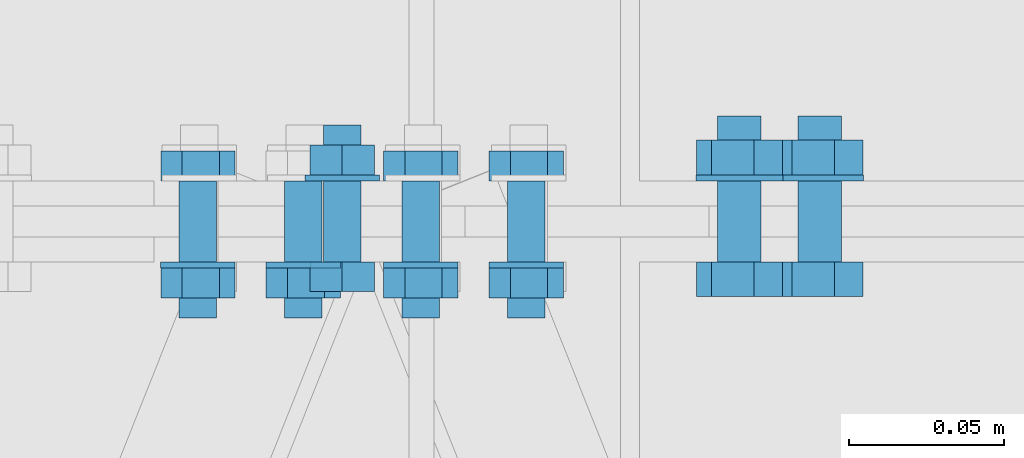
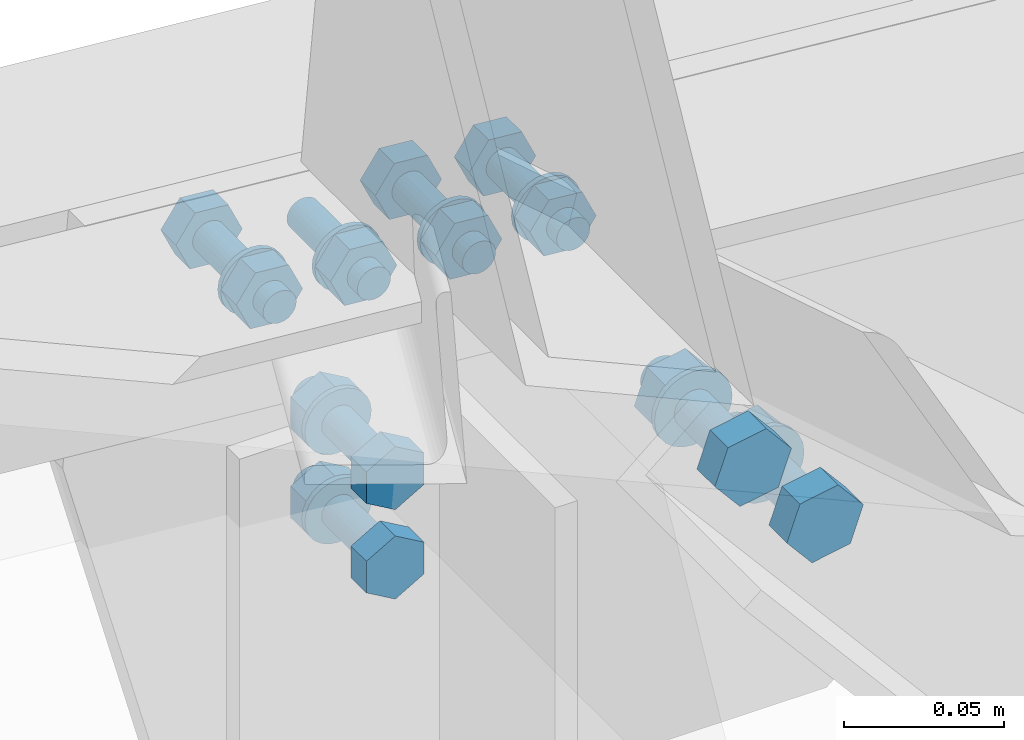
# One storey, part 221 of 251: 31 mechanical fasteners.
"""IFC4 building model written with IfcOpenShell, lengths in metres."""

from ifc_helpers import new_model, si_unit, frame, origin_with_axes, place, context, project, spatial, polyline, outline, extrude, type_object, element, save


model = new_model("IFC4")

# Units and contexts
model_context = context("Model", 3, precision=1e-05, world=origin_with_axes())
ifc_project = project(units=[si_unit("LENGTHUNIT", "METRE"), si_unit("AREAUNIT", "SQUARE_METRE"), si_unit("VOLUMEUNIT", "CUBIC_METRE"), si_unit("MASSUNIT", "GRAM", prefix="KILO"), si_unit("TIMEUNIT", "SECOND"), si_unit("PLANEANGLEUNIT", "RADIAN"), si_unit("SOLIDANGLEUNIT", "STERADIAN"), si_unit("THERMODYNAMICTEMPERATUREUNIT", "DEGREE_CELSIUS")], contexts=[model_context])

# Site, building, storey
placement_1 = place(None, origin_with_axes())
site = spatial("IfcSite", under=ifc_project, at=placement_1, Name="Italia", CompositionType="ELEMENT")
building = spatial("IfcBuilding", under=site, at=placement_1, Name="Deposito", CompositionType="ELEMENT")
storey = spatial("IfcBuildingStorey", under=building, at=placement_1, Name="Storey 0", CompositionType="ELEMENT", Elevation=0.0)

# Mechanical fasteners
mechanical_fastener_type_1 = type_object("IfcMechanicalFastenerType", Name="Reticolare 6", PredefinedType="BOLT")
placement_2 = place(placement_1, origin_with_axes())
mechanical_fastener_1_placement = place(placement_2, origin_with_axes())
element("IfcMechanicalFastener", 1, at=mechanical_fastener_1_placement, inside=storey, type_object=mechanical_fastener_type_1, Name="Reticolare 6", NominalDiameter=0.012, context=model_context, shape_type="SweptSolid", body=[
    extrude(outline(polyline([(0.0, 0.0), (-0.000204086, -0.00155306), (-0.000804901, -0.00299978), (-0.00175858, -0.00424242), (-0.00300026, -0.00519609), (-0.00444794, -0.00579548), (-0.00600052, -0.00600004), (-0.0075531, -0.00579548), (-0.00900078, -0.00519609), (-0.0102425, -0.00424242), (-0.0111961, -0.00299978), (-0.011797, -0.00155306), (-0.012001, 0.0), (-0.011797, 0.00155306), (-0.0111961, 0.00299978), (-0.0102425, 0.00424242), (-0.00900078, 0.00519609), (-0.0075531, 0.00579548), (-0.00600052, 0.00600004), (-0.00444794, 0.00579548), (-0.00300026, 0.00519609), (-0.00175858, 0.00424242), (-0.000804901, 0.00299978), (-0.000204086, 0.00155306), (0.0, 0.0)])), frame((17.9821, 19.969, 6.16899), z_axis=(0.0, 1.0, 0.0), x_axis=(-1.0, 0.0, 0.0)), (0.0, 0.0, 1.0), 0.0440006),
])
mechanical_fastener_type_2 = type_object("IfcMechanicalFastenerType", Name="Reticolare 6", PredefinedType="BOLT")
mechanical_fastener_2_placement = place(placement_2, origin_with_axes())
element("IfcMechanicalFastener", 2, at=mechanical_fastener_2_placement, inside=storey, type_object=mechanical_fastener_type_2, Name="Reticolare 6", NominalDiameter=0.011999, context=model_context, shape_type="SweptSolid", body=[
    extrude(outline(polyline([(0.0, 0.0), (0.0119534, 0.00104618), (0.018837, -0.00878382), (0.0137653, -0.0196595), (0.00181198, -0.0207052), (-0.00507164, -0.0108757), (0.0, 0.0)])), frame((17.995, 19.9754, 6.17882), z_axis=(0.0, 1.0, 0.0), x_axis=(-1.0, 0.0, 0.0)), (0.0, 0.0, 1.0), 0.00959969),
])
mechanical_fastener_type_3 = type_object("IfcMechanicalFastenerType", Name="Reticolare 6", PredefinedType="BOLT")
mechanical_fastener_3_placement = place(placement_2, origin_with_axes())
element("IfcMechanicalFastener", 3, at=mechanical_fastener_3_placement, inside=storey, type_object=mechanical_fastener_type_3, Name="Reticolare 6", NominalDiameter=0.024, context=model_context, shape_type="SweptSolid", body=[
    extrude(outline(polyline([(0.0, 0.0), (-0.000408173, -0.00310564), (-0.00160599, -0.00600004), (-0.00351334, -0.00848532), (-0.00599861, -0.0103922), (-0.00889397, -0.011591), (-0.0119991, -0.0120001), (-0.0151043, -0.011591), (-0.0179996, -0.0103922), (-0.0204849, -0.00848532), (-0.0223923, -0.00600004), (-0.0235901, -0.00310564), (-0.0239983, 0.0), (-0.0235901, 0.00310564), (-0.0223923, 0.00600004), (-0.0204849, 0.00848532), (-0.0179996, 0.0103922), (-0.0151043, 0.011591), (-0.0119991, 0.0120001), (-0.00889397, 0.011591), (-0.00599861, 0.0103922), (-0.00351334, 0.00848532), (-0.00160599, 0.00600004), (-0.000408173, 0.00310564), (0.0, 0.0)])), frame((17.9761, 19.985, 6.16899), z_axis=(0.0, 1.0, 0.0), x_axis=(-1.0, 0.0, 0.0)), (0.0, 0.0, 1.0), 0.0019989),
])
mechanical_fastener_type_4 = type_object("IfcMechanicalFastenerType", Name="Reticolare 6", PredefinedType="BOLT")
mechanical_fastener_4_placement = place(placement_2, origin_with_axes())
element("IfcMechanicalFastener", 4, at=mechanical_fastener_4_placement, inside=storey, type_object=mechanical_fastener_type_4, Name="Reticolare 6", NominalDiameter=0.011999, context=model_context, shape_type="SweptSolid", body=[
    extrude(outline(polyline([(0.0, 0.0), (0.0119534, 0.0010457), (0.018837, -0.00878429), (0.0137653, -0.01966), (0.00181198, -0.0207057), (-0.00507164, -0.0108757), (0.0, 0.0)])), frame((17.9611, 20.013, 6.18179), z_axis=(0.0, 1.0, 0.0), x_axis=(-1.0, 0.0, 0.0)), (0.0, 0.0, 1.0), 0.00959969),
])
mechanical_fastener_type_5 = type_object("IfcMechanicalFastenerType", Name="Reticolare 6", PredefinedType="BOLT")
mechanical_fastener_5_placement = place(placement_2, origin_with_axes())
element("IfcMechanicalFastener", 5, at=mechanical_fastener_5_placement, inside=storey, type_object=mechanical_fastener_type_5, Name="Reticolare 6", NominalDiameter=0.012, context=model_context, shape_type="SweptSolid", body=[
    extrude(outline(polyline([(0.0, 0.0), (-0.000204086, -0.00155306), (-0.000804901, -0.00299978), (-0.00175858, -0.00424242), (-0.00300026, -0.00519609), (-0.00444794, -0.00579548), (-0.00600052, -0.00600004), (-0.0075531, -0.00579548), (-0.00900078, -0.00519609), (-0.0102425, -0.00424242), (-0.0111961, -0.00299978), (-0.011797, -0.00155306), (-0.012001, 0.0), (-0.011797, 0.00155306), (-0.0111961, 0.00299978), (-0.0102425, 0.00424242), (-0.00900078, 0.00519609), (-0.0075531, 0.00579548), (-0.00600052, 0.00600004), (-0.00444794, 0.00579548), (-0.00300026, 0.00519609), (-0.00175858, 0.00424242), (-0.000804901, 0.00299978), (-0.000204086, 0.00155306), (0.0, 0.0)])), frame((17.9482, 19.969, 6.17196), z_axis=(0.0, 1.0, 0.0), x_axis=(-1.0, 0.0, 0.0)), (0.0, 0.0, 1.0), 0.0440006),
])
mechanical_fastener_type_6 = type_object("IfcMechanicalFastenerType", Name="Reticolare 6", PredefinedType="BOLT")
mechanical_fastener_6_placement = place(placement_2, origin_with_axes())
element("IfcMechanicalFastener", 6, at=mechanical_fastener_6_placement, inside=storey, type_object=mechanical_fastener_type_6, Name="Reticolare 6", NominalDiameter=0.011999, context=model_context, shape_type="SweptSolid", body=[
    extrude(outline(polyline([(0.0, 0.0), (0.0119534, 0.0010457), (0.018837, -0.00878429), (0.0137653, -0.01966), (0.00181198, -0.0207057), (-0.00507164, -0.0108757), (0.0, 0.0)])), frame((17.9611, 19.9754, 6.18179), z_axis=(0.0, 1.0, 0.0), x_axis=(-1.0, 0.0, 0.0)), (0.0, 0.0, 1.0), 0.00959969),
])
mechanical_fastener_type_7 = type_object("IfcMechanicalFastenerType", Name="Reticolare 6", PredefinedType="BOLT")
mechanical_fastener_7_placement = place(placement_2, origin_with_axes())
element("IfcMechanicalFastener", 7, at=mechanical_fastener_7_placement, inside=storey, type_object=mechanical_fastener_type_7, Name="Reticolare 6", NominalDiameter=0.024, context=model_context, shape_type="SweptSolid", body=[
    extrude(outline(polyline([(0.0, 0.0), (-0.000408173, -0.00310564), (-0.00160599, -0.00600004), (-0.00351334, -0.00848532), (-0.00599861, -0.0103922), (-0.00889397, -0.011591), (-0.0119991, -0.0120001), (-0.0151043, -0.011591), (-0.0179996, -0.0103922), (-0.0204849, -0.00848532), (-0.0223923, -0.00600004), (-0.0235901, -0.00310564), (-0.0239983, 0.0), (-0.0235901, 0.00310564), (-0.0223923, 0.00600004), (-0.0204849, 0.00848532), (-0.0179996, 0.0103922), (-0.0151043, 0.011591), (-0.0119991, 0.0120001), (-0.00889397, 0.011591), (-0.00599861, 0.0103922), (-0.00351334, 0.00848532), (-0.00160599, 0.00600004), (-0.000408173, 0.00310564), (0.0, 0.0)])), frame((17.9422, 19.985, 6.17196), z_axis=(0.0, 1.0, 0.0), x_axis=(-1.0, 0.0, 0.0)), (0.0, 0.0, 1.0), 0.0019989),
])
mechanical_fastener_type_8 = type_object("IfcMechanicalFastenerType", Name="Reticolare 6", PredefinedType="BOLT")
mechanical_fastener_8_placement = place(placement_2, origin_with_axes())
element("IfcMechanicalFastener", 8, at=mechanical_fastener_8_placement, inside=storey, type_object=mechanical_fastener_type_8, Name="Reticolare 6", NominalDiameter=0.011999, context=model_context, shape_type="SweptSolid", body=[
    extrude(outline(polyline([(0.0, 0.0), (0.0119534, 0.0010457), (0.018837, -0.00878429), (0.0137653, -0.01966), (0.00181007, -0.0207057), (-0.00507164, -0.0108757), (0.0, 0.0)])), frame((18.0328, 20.013, 6.17551), z_axis=(0.0, 1.0, 0.0), x_axis=(-1.0, 0.0, 0.0)), (0.0, 0.0, 1.0), 0.00959969),
])
mechanical_fastener_type_9 = type_object("IfcMechanicalFastenerType", Name="Reticolare 6", PredefinedType="BOLT")
mechanical_fastener_9_placement = place(placement_2, origin_with_axes())
element("IfcMechanicalFastener", 9, at=mechanical_fastener_9_placement, inside=storey, type_object=mechanical_fastener_type_9, Name="Reticolare 6", NominalDiameter=0.012, context=model_context, shape_type="SweptSolid", body=[
    extrude(outline(polyline([(0.0, 0.0), (-0.000204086, -0.00155306), (-0.000804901, -0.00299978), (-0.00175858, -0.00424242), (-0.00300026, -0.00519609), (-0.00444794, -0.00579548), (-0.00600052, -0.00600004), (-0.0075531, -0.00579548), (-0.00900078, -0.00519609), (-0.0102425, -0.00424242), (-0.0111961, -0.00299978), (-0.011797, -0.00155306), (-0.012001, 0.0), (-0.011797, 0.00155306), (-0.0111961, 0.00299978), (-0.0102425, 0.00424242), (-0.00900078, 0.00519609), (-0.0075531, 0.00579548), (-0.00600052, 0.00600004), (-0.00444794, 0.00579548), (-0.00300026, 0.00519609), (-0.00175858, 0.00424242), (-0.000804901, 0.00299978), (-0.000204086, 0.00155306), (0.0, 0.0)])), frame((18.0199, 19.969, 6.16568), z_axis=(0.0, 1.0, 0.0), x_axis=(-1.0, 0.0, 0.0)), (0.0, 0.0, 1.0), 0.0440006),
])
mechanical_fastener_type_10 = type_object("IfcMechanicalFastenerType", Name="Reticolare 6", PredefinedType="BOLT")
mechanical_fastener_10_placement = place(placement_2, origin_with_axes())
element("IfcMechanicalFastener", 10, at=mechanical_fastener_10_placement, inside=storey, type_object=mechanical_fastener_type_10, Name="Reticolare 6", NominalDiameter=0.011999, context=model_context, shape_type="SweptSolid", body=[
    extrude(outline(polyline([(0.0, 0.0), (0.0119534, 0.0010457), (0.018837, -0.00878429), (0.0137653, -0.01966), (0.00181007, -0.0207057), (-0.00507164, -0.0108757), (0.0, 0.0)])), frame((18.0328, 19.9754, 6.17551), z_axis=(0.0, 1.0, 0.0), x_axis=(-1.0, 0.0, 0.0)), (0.0, 0.0, 1.0), 0.00959969),
])
mechanical_fastener_type_11 = type_object("IfcMechanicalFastenerType", Name="Reticolare 6", PredefinedType="BOLT")
mechanical_fastener_11_placement = place(placement_2, origin_with_axes())
element("IfcMechanicalFastener", 11, at=mechanical_fastener_11_placement, inside=storey, type_object=mechanical_fastener_type_11, Name="Reticolare 6", NominalDiameter=0.024, context=model_context, shape_type="SweptSolid", body=[
    extrude(outline(polyline([(0.0, 0.0), (-0.000408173, -0.00310564), (-0.00160599, -0.00600004), (-0.00351334, -0.00848532), (-0.00599861, -0.0103922), (-0.00889397, -0.011591), (-0.0119991, -0.0120001), (-0.0151043, -0.011591), (-0.0179996, -0.0103922), (-0.0204849, -0.00848532), (-0.0223923, -0.00600004), (-0.0235901, -0.00310564), (-0.0239983, 0.0), (-0.0235901, 0.00310564), (-0.0223923, 0.00600004), (-0.0204849, 0.00848532), (-0.0179996, 0.0103922), (-0.0151043, 0.011591), (-0.0119991, 0.0120001), (-0.00889397, 0.011591), (-0.00599861, 0.0103922), (-0.00351334, 0.00848532), (-0.00160599, 0.00600004), (-0.000408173, 0.00310564), (0.0, 0.0)])), frame((18.0139, 19.985, 6.16568), z_axis=(0.0, 1.0, 0.0), x_axis=(-1.0, 0.0, 0.0)), (0.0, 0.0, 1.0), 0.0019989),
])
mechanical_fastener_type_12 = type_object("IfcMechanicalFastenerType", Name="Reticolare 6", PredefinedType="BOLT")
mechanical_fastener_12_placement = place(placement_2, origin_with_axes())
element("IfcMechanicalFastener", 12, at=mechanical_fastener_12_placement, inside=storey, type_object=mechanical_fastener_type_12, Name="Reticolare 6", NominalDiameter=0.011999, context=model_context, shape_type="SweptSolid", body=[
    extrude(outline(polyline([(0.0, 0.0), (0.0119534, 0.0010457), (0.018837, -0.00878382), (0.0137653, -0.0196595), (0.00181007, -0.0207052), (-0.00507164, -0.0108757), (0.0, 0.0)])), frame((18.0667, 20.013, 6.17255), z_axis=(0.0, 1.0, 0.0), x_axis=(-1.0, 0.0, 0.0)), (0.0, 0.0, 1.0), 0.00959969),
])
mechanical_fastener_type_13 = type_object("IfcMechanicalFastenerType", Name="Reticolare 6", PredefinedType="BOLT")
mechanical_fastener_13_placement = place(placement_2, origin_with_axes())
element("IfcMechanicalFastener", 13, at=mechanical_fastener_13_placement, inside=storey, type_object=mechanical_fastener_type_13, Name="Reticolare 6", NominalDiameter=0.012, context=model_context, shape_type="SweptSolid", body=[
    extrude(outline(polyline([(0.0, 0.0), (-0.000204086, -0.00155306), (-0.000804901, -0.00299978), (-0.00175858, -0.00424242), (-0.00300026, -0.00519609), (-0.00444794, -0.00579548), (-0.00600052, -0.00600004), (-0.0075531, -0.00579548), (-0.00900078, -0.00519609), (-0.0102425, -0.00424242), (-0.0111961, -0.00299978), (-0.011797, -0.00155306), (-0.012001, 0.0), (-0.011797, 0.00155306), (-0.0111961, 0.00299978), (-0.0102425, 0.00424242), (-0.00900078, 0.00519609), (-0.0075531, 0.00579548), (-0.00600052, 0.00600004), (-0.00444794, 0.00579548), (-0.00300026, 0.00519609), (-0.00175858, 0.00424242), (-0.000804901, 0.00299978), (-0.000204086, 0.00155306), (0.0, 0.0)])), frame((18.0538, 19.969, 6.16272), z_axis=(0.0, 1.0, 0.0), x_axis=(-1.0, 0.0, 0.0)), (0.0, 0.0, 1.0), 0.0440006),
])
mechanical_fastener_type_14 = type_object("IfcMechanicalFastenerType", Name="Reticolare 6", PredefinedType="BOLT")
mechanical_fastener_14_placement = place(placement_2, origin_with_axes())
element("IfcMechanicalFastener", 14, at=mechanical_fastener_14_placement, inside=storey, type_object=mechanical_fastener_type_14, Name="Reticolare 6", NominalDiameter=0.011999, context=model_context, shape_type="SweptSolid", body=[
    extrude(outline(polyline([(0.0, 0.0), (0.0119534, 0.0010457), (0.018837, -0.00878382), (0.0137653, -0.0196595), (0.00181007, -0.0207052), (-0.00507164, -0.0108757), (0.0, 0.0)])), frame((18.0667, 19.9754, 6.17255), z_axis=(0.0, 1.0, 0.0), x_axis=(-1.0, 0.0, 0.0)), (0.0, 0.0, 1.0), 0.00959969),
])
mechanical_fastener_type_15 = type_object("IfcMechanicalFastenerType", Name="Reticolare 6", PredefinedType="BOLT")
mechanical_fastener_15_placement = place(placement_2, origin_with_axes())
element("IfcMechanicalFastener", 15, at=mechanical_fastener_15_placement, inside=storey, type_object=mechanical_fastener_type_15, Name="Reticolare 6", NominalDiameter=0.024, context=model_context, shape_type="SweptSolid", body=[
    extrude(outline(polyline([(0.0, 0.0), (-0.000408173, -0.00310564), (-0.00160599, -0.00600004), (-0.00351334, -0.00848532), (-0.00599861, -0.0103922), (-0.00889397, -0.011591), (-0.0119991, -0.0120001), (-0.0151043, -0.011591), (-0.0179996, -0.0103922), (-0.0204849, -0.00848532), (-0.0223923, -0.00600004), (-0.0235901, -0.00310564), (-0.0239983, 0.0), (-0.0235901, 0.00310564), (-0.0223923, 0.00600004), (-0.0204849, 0.00848532), (-0.0179996, 0.0103922), (-0.0151043, 0.011591), (-0.0119991, 0.0120001), (-0.00889397, 0.011591), (-0.00599861, 0.0103922), (-0.00351334, 0.00848532), (-0.00160599, 0.00600004), (-0.000408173, 0.00310564), (0.0, 0.0)])), frame((18.0478, 19.985, 6.16272), z_axis=(0.0, 1.0, 0.0), x_axis=(-1.0, 0.0, 0.0)), (0.0, 0.0, 1.0), 0.0019989),
])
mechanical_fastener_type_16 = type_object("IfcMechanicalFastenerType", Name="Reticolare 6", PredefinedType="BOLT")
mechanical_fastener_16_placement = place(placement_2, origin_with_axes())
element("IfcMechanicalFastener", 16, at=mechanical_fastener_16_placement, inside=storey, type_object=mechanical_fastener_type_16, Name="Reticolare 6", NominalDiameter=0.0120001, context=model_context, shape_type="SweptSolid", body=[
    extrude(outline(polyline([(0.0, 0.0), (0.0, -0.0120001), (-0.0103931, -0.0180001), (-0.0207863, -0.0120001), (-0.0207863, 0.0), (-0.0103931, 0.00600004), (0.0, 0.0)])), frame((18.011, 19.987, 6.09155), z_axis=(0.0, -1.0, 0.0), x_axis=(1.0, 0.0, 0.0)), (0.0, 0.0, 1.0), 0.00959969),
])
mechanical_fastener_type_17 = type_object("IfcMechanicalFastenerType", Name="Reticolare 6", PredefinedType="BOLT")
mechanical_fastener_17_placement = place(placement_2, origin_with_axes())
element("IfcMechanicalFastener", 17, at=mechanical_fastener_17_placement, inside=storey, type_object=mechanical_fastener_type_17, Name="Reticolare 6", NominalDiameter=0.012, context=model_context, shape_type="SweptSolid", body=[
    extrude(outline(polyline([(0.0, 0.0), (-0.000204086, -0.00155306), (-0.000804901, -0.00299978), (-0.00175858, -0.00424242), (-0.00300026, -0.00519609), (-0.00444794, -0.00579548), (-0.00600052, -0.00600004), (-0.0075531, -0.00579548), (-0.00900078, -0.00519609), (-0.0102425, -0.00424242), (-0.0111961, -0.00299978), (-0.011797, -0.00155306), (-0.012001, 0.0), (-0.011797, 0.00155306), (-0.0111961, 0.00299978), (-0.0102425, 0.00424242), (-0.00900078, 0.00519609), (-0.0075531, 0.00579548), (-0.00600052, 0.00600004), (-0.00444794, 0.00579548), (-0.00300026, 0.00519609), (-0.00175858, 0.00424242), (-0.000804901, 0.00299978), (-0.000204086, 0.00155306), (0.0, 0.0)])), frame((18.0066, 20.031, 6.08555), z_axis=(0.0, -1.0, 0.0), x_axis=(1.0, 0.0, 0.0)), (0.0, 0.0, 1.0), 0.0440006),
])
mechanical_fastener_type_18 = type_object("IfcMechanicalFastenerType", Name="Reticolare 6", PredefinedType="BOLT")
mechanical_fastener_18_placement = place(placement_2, origin_with_axes())
element("IfcMechanicalFastener", 18, at=mechanical_fastener_18_placement, inside=storey, type_object=mechanical_fastener_type_18, Name="Reticolare 6", NominalDiameter=0.0120001, context=model_context, shape_type="SweptSolid", body=[
    extrude(outline(polyline([(0.0, 0.0), (0.0, -0.0120001), (-0.0103931, -0.0180001), (-0.0207863, -0.0120001), (-0.0207863, 0.0), (-0.0103931, 0.00600004), (0.0, 0.0)])), frame((18.011, 20.0246, 6.09155), z_axis=(0.0, -1.0, 0.0), x_axis=(1.0, 0.0, 0.0)), (0.0, 0.0, 1.0), 0.00959969),
])
mechanical_fastener_type_19 = type_object("IfcMechanicalFastenerType", Name="Reticolare 6", PredefinedType="BOLT")
mechanical_fastener_19_placement = place(placement_2, origin_with_axes())
element("IfcMechanicalFastener", 19, at=mechanical_fastener_19_placement, inside=storey, type_object=mechanical_fastener_type_19, Name="Reticolare 6", NominalDiameter=0.024, context=model_context, shape_type="SweptSolid", body=[
    extrude(outline(polyline([(0.0, 0.0), (-0.000408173, -0.00310564), (-0.00160599, -0.00600004), (-0.00351334, -0.00848532), (-0.00599861, -0.0103922), (-0.00889397, -0.011591), (-0.0119991, -0.0120001), (-0.0151043, -0.011591), (-0.0179996, -0.0103922), (-0.0204849, -0.00848532), (-0.0223923, -0.00600004), (-0.0235901, -0.00310564), (-0.0239983, 0.0), (-0.0235901, 0.00310564), (-0.0223923, 0.00600004), (-0.0204849, 0.00848532), (-0.0179996, 0.0103922), (-0.0151043, 0.011591), (-0.0119991, 0.0120001), (-0.00889397, 0.011591), (-0.00599861, 0.0103922), (-0.00351334, 0.00848532), (-0.00160599, 0.00600004), (-0.000408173, 0.00310564), (0.0, 0.0)])), frame((18.0126, 20.015, 6.08555), z_axis=(0.0, -1.0, 0.0), x_axis=(1.0, 0.0, 0.0)), (0.0, 0.0, 1.0), 0.0019989),
])
mechanical_fastener_type_20 = type_object("IfcMechanicalFastenerType", Name="Reticolare 6", PredefinedType="BOLT")
mechanical_fastener_20_placement = place(placement_2, origin_with_axes())
element("IfcMechanicalFastener", 20, at=mechanical_fastener_20_placement, inside=storey, type_object=mechanical_fastener_type_20, Name="Reticolare 6", NominalDiameter=0.0120001, context=model_context, shape_type="SweptSolid", body=[
    extrude(outline(polyline([(0.0, 0.0), (0.0, -0.0120001), (-0.0103931, -0.0180001), (-0.0207863, -0.0120001), (-0.0207863, 0.0), (-0.0103931, 0.00600004), (0.0, 0.0)])), frame((18.011, 19.987, 6.05755), z_axis=(0.0, -1.0, 0.0), x_axis=(1.0, 0.0, 0.0)), (0.0, 0.0, 1.0), 0.00959969),
])
mechanical_fastener_type_21 = type_object("IfcMechanicalFastenerType", Name="Reticolare 6", PredefinedType="BOLT")
mechanical_fastener_21_placement = place(placement_2, origin_with_axes())
element("IfcMechanicalFastener", 21, at=mechanical_fastener_21_placement, inside=storey, type_object=mechanical_fastener_type_21, Name="Reticolare 6", NominalDiameter=0.012, context=model_context, shape_type="SweptSolid", body=[
    extrude(outline(polyline([(0.0, 0.0), (-0.000204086, -0.00155306), (-0.000804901, -0.00299978), (-0.00175858, -0.00424242), (-0.00300026, -0.00519609), (-0.00444794, -0.00579548), (-0.00600052, -0.00600004), (-0.0075531, -0.00579548), (-0.00900078, -0.00519609), (-0.0102425, -0.00424242), (-0.0111961, -0.00299978), (-0.011797, -0.00155306), (-0.012001, 0.0), (-0.011797, 0.00155306), (-0.0111961, 0.00299978), (-0.0102425, 0.00424242), (-0.00900078, 0.00519609), (-0.0075531, 0.00579548), (-0.00600052, 0.00600004), (-0.00444794, 0.00579548), (-0.00300026, 0.00519609), (-0.00175858, 0.00424242), (-0.000804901, 0.00299978), (-0.000204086, 0.00155306), (0.0, 0.0)])), frame((18.0066, 20.031, 6.05155), z_axis=(0.0, -1.0, 0.0), x_axis=(1.0, 0.0, 0.0)), (0.0, 0.0, 1.0), 0.0440006),
])
mechanical_fastener_type_22 = type_object("IfcMechanicalFastenerType", Name="Reticolare 6", PredefinedType="BOLT")
mechanical_fastener_22_placement = place(placement_2, origin_with_axes())
element("IfcMechanicalFastener", 22, at=mechanical_fastener_22_placement, inside=storey, type_object=mechanical_fastener_type_22, Name="Reticolare 6", NominalDiameter=0.0120001, context=model_context, shape_type="SweptSolid", body=[
    extrude(outline(polyline([(0.0, 0.0), (0.0, -0.0120001), (-0.0103931, -0.0180001), (-0.0207863, -0.0120001), (-0.0207863, 0.0), (-0.0103931, 0.00600004), (0.0, 0.0)])), frame((18.011, 20.0246, 6.05755), z_axis=(0.0, -1.0, 0.0), x_axis=(1.0, 0.0, 0.0)), (0.0, 0.0, 1.0), 0.00959969),
])
mechanical_fastener_type_23 = type_object("IfcMechanicalFastenerType", Name="Reticolare 6", PredefinedType="BOLT")
mechanical_fastener_23_placement = place(placement_2, origin_with_axes())
element("IfcMechanicalFastener", 23, at=mechanical_fastener_23_placement, inside=storey, type_object=mechanical_fastener_type_23, Name="Reticolare 6", NominalDiameter=0.024, context=model_context, shape_type="SweptSolid", body=[
    extrude(outline(polyline([(0.0, 0.0), (-0.000408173, -0.00310564), (-0.00160599, -0.00600004), (-0.00351334, -0.00848532), (-0.00599861, -0.0103922), (-0.00889397, -0.011591), (-0.0119991, -0.0120001), (-0.0151043, -0.011591), (-0.0179996, -0.0103922), (-0.0204849, -0.00848532), (-0.0223923, -0.00600004), (-0.0235901, -0.00310564), (-0.0239983, 0.0), (-0.0235901, 0.00310564), (-0.0223923, 0.00600004), (-0.0204849, 0.00848532), (-0.0179996, 0.0103922), (-0.0151043, 0.011591), (-0.0119991, 0.0120001), (-0.00889397, 0.011591), (-0.00599861, 0.0103922), (-0.00351334, 0.00848532), (-0.00160599, 0.00600004), (-0.000408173, 0.00310564), (0.0, 0.0)])), frame((18.0126, 20.015, 6.05155), z_axis=(0.0, -1.0, 0.0), x_axis=(1.0, 0.0, 0.0)), (0.0, 0.0, 1.0), 0.0019989),
])
mechanical_fastener_type_24 = type_object("IfcMechanicalFastenerType", Name="Reticolare 6", PredefinedType="BOLT")
mechanical_fastener_24_placement = place(placement_2, origin_with_axes())
element("IfcMechanicalFastener", 24, at=mechanical_fastener_24_placement, inside=storey, type_object=mechanical_fastener_type_24, Name="Reticolare 6", NominalDiameter=0.013999, context=model_context, shape_type="SweptSolid", body=[
    extrude(outline(polyline([(0.0, 0.0), (-0.009058, 0.0106759), (-0.00433922, 0.0238571), (0.00943375, 0.0263624), (0.0184898, 0.0156865), (0.013773, 0.0025053), (0.0, 0.0)])), frame((18.1237, 19.987, 6.03264), z_axis=(0.0, -1.0, 0.0), x_axis=(1.0, 0.0, 0.0)), (0.0, 0.0, 1.0), 0.0112),
])
mechanical_fastener_type_25 = type_object("IfcMechanicalFastenerType", Name="Reticolare 6", PredefinedType="BOLT")
mechanical_fastener_25_placement = place(placement_2, origin_with_axes())
element("IfcMechanicalFastener", 25, at=mechanical_fastener_25_placement, inside=storey, type_object=mechanical_fastener_type_25, Name="Reticolare 6", NominalDiameter=0.014, context=model_context, shape_type="SweptSolid", body=[
    extrude(outline(polyline([(0.0, 0.0), (-0.000238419, -0.0018115), (-0.000938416, -0.00349998), (-0.0020504, -0.00494957), (-0.00349998, -0.00606203), (-0.00518799, -0.00676155), (-0.00699997, -0.00699997), (-0.00881195, -0.00676155), (-0.0105, -0.00606203), (-0.0119495, -0.00494957), (-0.0130615, -0.00349998), (-0.0137615, -0.0018115), (-0.0139999, 0.0), (-0.0137615, 0.0018115), (-0.0130615, 0.00349998), (-0.0119495, 0.00494957), (-0.0105, 0.00606203), (-0.00881195, 0.00676155), (-0.00699997, 0.00699997), (-0.00518799, 0.00676155), (-0.00349998, 0.00606203), (-0.0020504, 0.00494957), (-0.000938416, 0.00349998), (-0.000238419, 0.0018115), (0.0, 0.0)])), frame((18.1354, 20.034, 6.04582), z_axis=(0.0, -1.0, 0.0), x_axis=(1.0, 0.0, 0.0)), (0.0, 0.0, 1.0), 0.0470009),
])
mechanical_fastener_type_26 = type_object("IfcMechanicalFastenerType", Name="Reticolare 6", PredefinedType="BOLT")
mechanical_fastener_26_placement = place(placement_2, origin_with_axes())
element("IfcMechanicalFastener", 26, at=mechanical_fastener_26_placement, inside=storey, type_object=mechanical_fastener_type_26, Name="Reticolare 6", NominalDiameter=0.013999, context=model_context, shape_type="SweptSolid", body=[
    extrude(outline(polyline([(0.0, 0.0), (-0.009058, 0.0106759), (-0.00433922, 0.0238571), (0.00943375, 0.0263624), (0.0184898, 0.0156865), (0.013773, 0.0025053), (0.0, 0.0)])), frame((18.1237, 20.0262, 6.03264), z_axis=(0.0, -1.0, 0.0), x_axis=(1.0, 0.0, 0.0)), (0.0, 0.0, 1.0), 0.0112),
])
mechanical_fastener_type_27 = type_object("IfcMechanicalFastenerType", Name="Reticolare 6", PredefinedType="BOLT")
mechanical_fastener_27_placement = place(placement_2, origin_with_axes())
element("IfcMechanicalFastener", 27, at=mechanical_fastener_27_placement, inside=storey, type_object=mechanical_fastener_type_27, Name="Reticolare 6", NominalDiameter=0.028, context=model_context, shape_type="SweptSolid", body=[
    extrude(outline(polyline([(0.0, 0.0), (-0.000476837, -0.00362349), (-0.00187492, -0.00699997), (-0.0041008, -0.00989962), (-0.00699997, -0.0121245), (-0.010376, -0.0135231), (-0.0139999, -0.0139999), (-0.0176239, -0.0135231), (-0.0209999, -0.0121245), (-0.0238991, -0.00989962), (-0.026125, -0.00699997), (-0.027523, -0.00362349), (-0.0279999, 0.0), (-0.027523, 0.00362349), (-0.026125, 0.00699997), (-0.0238991, 0.00989962), (-0.0209999, 0.0121245), (-0.0176239, 0.0135231), (-0.0139999, 0.0139999), (-0.010376, 0.0135231), (-0.00699997, 0.0121245), (-0.0041008, 0.00989962), (-0.00187492, 0.00699997), (-0.000476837, 0.00362349), (0.0, 0.0)])), frame((18.1424, 20.015, 6.04582), z_axis=(0.0, -1.0, 0.0), x_axis=(1.0, 0.0, 0.0)), (0.0, 0.0, 1.0), 0.0019989),
])
mechanical_fastener_type_28 = type_object("IfcMechanicalFastenerType", Name="Reticolare 6", PredefinedType="BOLT")
mechanical_fastener_28_placement = place(placement_2, origin_with_axes())
element("IfcMechanicalFastener", 28, at=mechanical_fastener_28_placement, inside=storey, type_object=mechanical_fastener_type_28, Name="Reticolare 6", NominalDiameter=0.0139996, context=model_context, shape_type="SweptSolid", body=[
    extrude(outline(polyline([(0.0, 0.0), (-0.00905609, 0.0106759), (-0.00433922, 0.0238571), (0.00943565, 0.0263624), (0.0184917, 0.0156865), (0.0137749, 0.0025053), (0.0, 0.0)])), frame((18.1496, 19.987, 6.00214), z_axis=(0.0, -1.0, 0.0), x_axis=(1.0, 0.0, 0.0)), (0.0, 0.0, 1.0), 0.0112),
])
mechanical_fastener_type_29 = type_object("IfcMechanicalFastenerType", Name="Reticolare 6", PredefinedType="BOLT")
mechanical_fastener_29_placement = place(placement_2, origin_with_axes())
element("IfcMechanicalFastener", 29, at=mechanical_fastener_29_placement, inside=storey, type_object=mechanical_fastener_type_29, Name="Reticolare 6", NominalDiameter=0.014, context=model_context, shape_type="SweptSolid", body=[
    extrude(outline(polyline([(0.0, 0.0), (-0.000238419, -0.0018115), (-0.000938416, -0.00349998), (-0.0020504, -0.00494957), (-0.00349998, -0.00606203), (-0.00518799, -0.00676155), (-0.00699997, -0.00699997), (-0.00881195, -0.00676155), (-0.0105, -0.00606203), (-0.0119495, -0.00494957), (-0.0130615, -0.00349998), (-0.0137615, -0.0018115), (-0.0139999, 0.0), (-0.0137615, 0.0018115), (-0.0130615, 0.00349998), (-0.0119495, 0.00494957), (-0.0105, 0.00606203), (-0.00881195, 0.00676155), (-0.00699997, 0.00699997), (-0.00518799, 0.00676155), (-0.00349998, 0.00606203), (-0.0020504, 0.00494957), (-0.000938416, 0.00349998), (-0.000238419, 0.0018115), (0.0, 0.0)])), frame((18.1613, 20.034, 6.01532), z_axis=(0.0, -1.0, 0.0), x_axis=(1.0, 0.0, 0.0)), (0.0, 0.0, 1.0), 0.0470009),
])
mechanical_fastener_type_30 = type_object("IfcMechanicalFastenerType", Name="Reticolare 6", PredefinedType="BOLT")
mechanical_fastener_30_placement = place(placement_2, origin_with_axes())
element("IfcMechanicalFastener", 30, at=mechanical_fastener_30_placement, inside=storey, type_object=mechanical_fastener_type_30, Name="Reticolare 6", NominalDiameter=0.0139996, context=model_context, shape_type="SweptSolid", body=[
    extrude(outline(polyline([(0.0, 0.0), (-0.00905609, 0.0106759), (-0.00433922, 0.0238571), (0.00943565, 0.0263624), (0.0184917, 0.0156865), (0.0137749, 0.0025053), (0.0, 0.0)])), frame((18.1496, 20.0262, 6.00214), z_axis=(0.0, -1.0, 0.0), x_axis=(1.0, 0.0, 0.0)), (0.0, 0.0, 1.0), 0.0112),
])
mechanical_fastener_type_31 = type_object("IfcMechanicalFastenerType", Name="Reticolare 6", PredefinedType="BOLT")
mechanical_fastener_31_placement = place(placement_2, origin_with_axes())
element("IfcMechanicalFastener", 31, at=mechanical_fastener_31_placement, inside=storey, type_object=mechanical_fastener_type_31, Name="Reticolare 6", NominalDiameter=0.028, context=model_context, shape_type="SweptSolid", body=[
    extrude(outline(polyline([(0.0, 0.0), (-0.000476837, -0.00362349), (-0.00187492, -0.00699997), (-0.0041008, -0.00989962), (-0.00699997, -0.0121245), (-0.010376, -0.0135231), (-0.0139999, -0.0139999), (-0.0176239, -0.0135231), (-0.0209999, -0.0121245), (-0.0238991, -0.00989962), (-0.026125, -0.00699997), (-0.027523, -0.00362349), (-0.0279999, 0.0), (-0.027523, 0.00362349), (-0.026125, 0.00699997), (-0.0238991, 0.00989962), (-0.0209999, 0.0121245), (-0.0176239, 0.0135231), (-0.0139999, 0.0139999), (-0.010376, 0.0135231), (-0.00699997, 0.0121245), (-0.0041008, 0.00989962), (-0.00187492, 0.00699997), (-0.000476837, 0.00362349), (0.0, 0.0)])), frame((18.1683, 20.015, 6.01532), z_axis=(0.0, -1.0, 0.0), x_axis=(1.0, 0.0, 0.0)), (0.0, 0.0, 1.0), 0.0019989),
])

save(model, "model.ifc")
